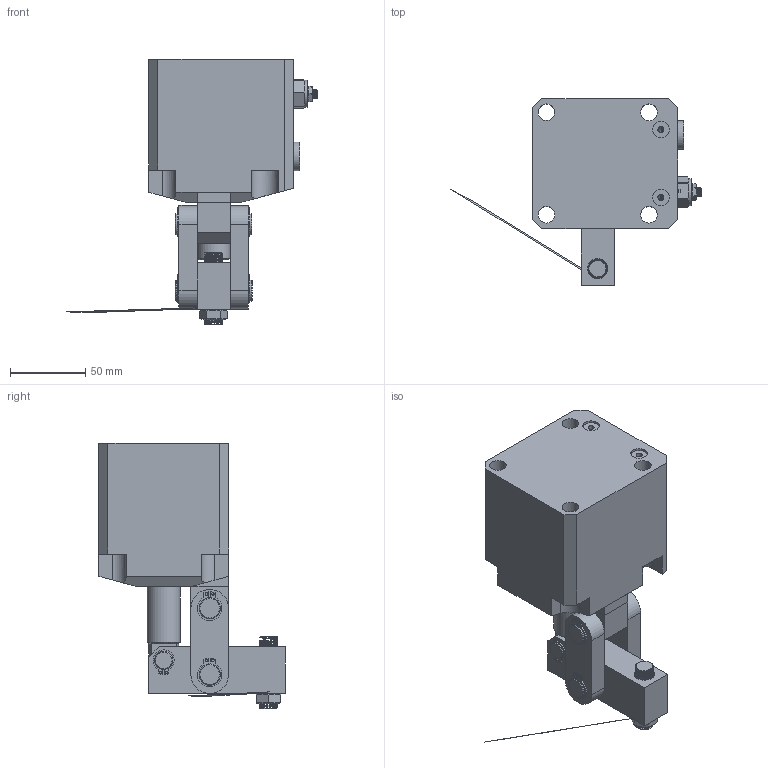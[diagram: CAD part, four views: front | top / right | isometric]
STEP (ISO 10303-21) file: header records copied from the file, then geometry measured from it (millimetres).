
FILE_DESCRIPTION(/* description */ ('STEP AP214'),/* implementation_level */ '2;1');
FILE_NAME(/* name */ 'D:\Vault_2016\Projekty\Clamptek\Hydraulic\CBLU\CBLU-55\STEP\CBLU-55CR.stp',/* time_stamp */ '2021-05-06T12:52:57+02:00',/* author */ ('user'),/* organization */ (''),/* preprocessor_version */ 'ST-DEVELOPER v18.1',/* originating_system */ 'Autodesk Inventor 2021',/* authorisation */ '');
FILE_SCHEMA (('AUTOMOTIVE_DESIGN { 1 0 10303 214 3 1 1 }'));
Products named in the file (15): CBLU-55CR; CBLU-55CR±¾Ìå_2_1; duanxiao; huosaigan_5; luogan; luomu; yabi; liangan; changxiao; kahuang01; kahuang; 20·§Ìå; 20µ÷ËÙ¸Ë; hex thin nuts-grades ab-chamfered gb(GB_FASTENER_NUT_STNAB M6-S); ÄÚÁù½Ç¶ÂÍ·×
îÐÂ1-4_1
Assembly tree (20 placements, depth 2):
  CBLU-55CR
    CBLU-55CR±¾Ìå_2_1
    changxiao  x2
    duanxiao
    huosaigan_5
    kahuang  x4
    kahuang01  x2
    liangan  x2
    luogan
    luomu
    yabi
    20·§Ìå
    20µ÷ËÙ¸Ë
    hex thin nuts-grades ab-chamfered gb(GB_FASTENER_NUT_STNAB M6-S)
    ÄÚÁù½Ç¶ÂÍ·×
îÐÂ1-4_1
Bounding box: 166.54 x 123.5 x 176.14 mm (x, y, z)
Volume: 695959.7 mm3; surface area: 133602 mm2
Topology: 21 solids, 104 shells, 686 faces, 1833 edges, 1285 vertices
Faces by surface type: cylinder 334, plane 208, bspline 82, cone 58, torus 4
Full cylindrical faces by diameter (mm): 1.479 x4, 1.725 x8, 2 x3, 2.5 x4, 4 x3, 4.917 x4, 5 x8, 5.3 x1, 6 x13, 7.5 x1, 8 x3, 10 x1, 11 x27, 11.5 x7, 11.9 x1, 12 x18, 13 x5, 14 x12, 16.8 x1, 18 x1, 19 x1, 22 x2, 55 x2
Entity records: 113535 total; most frequent: CARTESIAN_POINT 99193, ORIENTED_EDGE 2984, DIRECTION 2306, EDGE_CURVE 1623, VERTEX_POINT 1145, AXIS2_PLACEMENT_3D 870, B_SPLINE_CURVE_WITH_KNOTS 693, EDGE_LOOP 678
